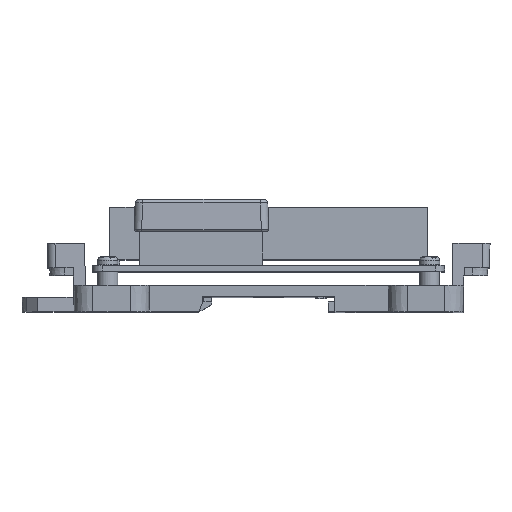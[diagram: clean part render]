
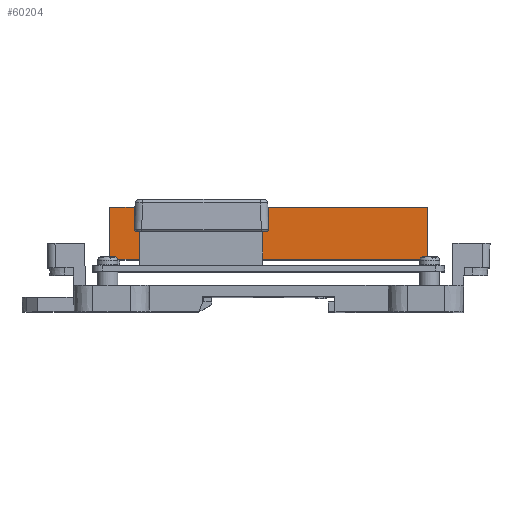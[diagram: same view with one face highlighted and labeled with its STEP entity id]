
A CAD part, top view. The second image highlights one B-rep face of the part: STEP entity #60204.
In plain terms, the highlighted planar face has unit normal (0, 0, 1).
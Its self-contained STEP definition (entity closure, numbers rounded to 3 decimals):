
#3469 = DIRECTION ( 'NONE',  ( 0., -1., 0. ) ) ;
#4624 = EDGE_CURVE ( 'NONE', #11910, #15318, #53050, .T. ) ;
#4769 = CARTESIAN_POINT ( 'NONE',  ( 42.42, 23.89, 110.81 ) ) ;
#5320 = CARTESIAN_POINT ( 'NONE',  ( -42.42, 23.89, 110.81 ) ) ;
#5664 = EDGE_CURVE ( 'NONE', #15318, #49116, #22373, .T. ) ;
#6046 = EDGE_LOOP ( 'NONE', ( #10362, #30870, #43456, #62588 ) ) ;
#10362 = ORIENTED_EDGE ( 'NONE', *, *, #39711, .F. ) ;
#11910 = VERTEX_POINT ( 'NONE', #48324 ) ;
#12574 = VECTOR ( 'NONE', #43372, 1000. ) ;
#15318 = VERTEX_POINT ( 'NONE', #4769 ) ;
#15808 = CARTESIAN_POINT ( 'NONE',  ( -42.42, 9.99, 110.81 ) ) ;
#15976 = AXIS2_PLACEMENT_3D ( 'NONE', #24680, #31207, #19665 ) ;
#17937 = CARTESIAN_POINT ( 'NONE',  ( -42.42, 9.99, 110.81 ) ) ;
#19665 = DIRECTION ( 'NONE',  ( -1., 0., 0. ) ) ;
#20739 = CARTESIAN_POINT ( 'NONE',  ( 42.42, 9.99, 110.81 ) ) ;
#21174 = CARTESIAN_POINT ( 'NONE',  ( -42.42, 23.89, 110.81 ) ) ;
#22373 = LINE ( 'NONE', #50461, #28625 ) ;
#24680 = CARTESIAN_POINT ( 'NONE',  ( -42.42, 23.89, 110.81 ) ) ;
#26932 = LINE ( 'NONE', #21174, #63944 ) ;
#28625 = VECTOR ( 'NONE', #3469, 1000. ) ;
#30338 = DIRECTION ( 'NONE',  ( 1., 0., 0. ) ) ;
#30870 = ORIENTED_EDGE ( 'NONE', *, *, #5664, .F. ) ;
#31207 = DIRECTION ( 'NONE',  ( 0., 0., -1. ) ) ;
#39502 = VECTOR ( 'NONE', #30338, 1000. ) ;
#39711 = EDGE_CURVE ( 'NONE', #49116, #53802, #46807, .T. ) ;
#42073 = FACE_OUTER_BOUND ( 'NONE', #6046, .T. ) ;
#43372 = DIRECTION ( 'NONE',  ( -1., 0., 0. ) ) ;
#43456 = ORIENTED_EDGE ( 'NONE', *, *, #4624, .F. ) ;
#46807 = LINE ( 'NONE', #17937, #12574 ) ;
#48324 = CARTESIAN_POINT ( 'NONE',  ( -42.42, 23.89, 110.81 ) ) ;
#48835 = EDGE_CURVE ( 'NONE', #11910, #53802, #26932, .T. ) ;
#49116 = VERTEX_POINT ( 'NONE', #20739 ) ;
#50461 = CARTESIAN_POINT ( 'NONE',  ( 42.42, 23.89, 110.81 ) ) ;
#53050 = LINE ( 'NONE', #5320, #39502 ) ;
#53802 = VERTEX_POINT ( 'NONE', #15808 ) ;
#60204 = ADVANCED_FACE ( 'NONE', ( #42073 ), #65436, .F. ) ;
#62588 = ORIENTED_EDGE ( 'NONE', *, *, #48835, .T. ) ;
#63944 = VECTOR ( 'NONE', #68452, 1000. ) ;
#65436 = PLANE ( 'NONE',  #15976 ) ;
#68452 = DIRECTION ( 'NONE',  ( 0., -1., 0. ) ) ;
